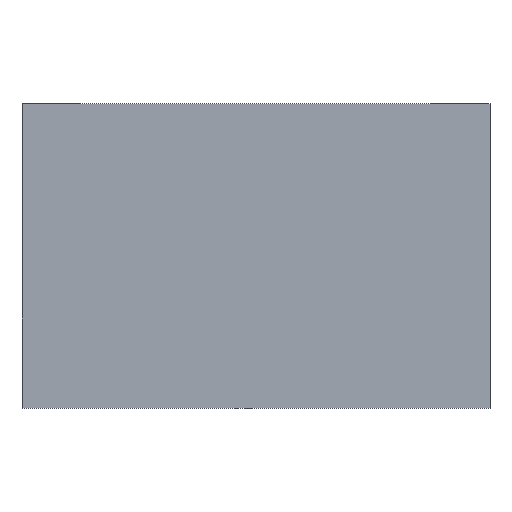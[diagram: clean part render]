
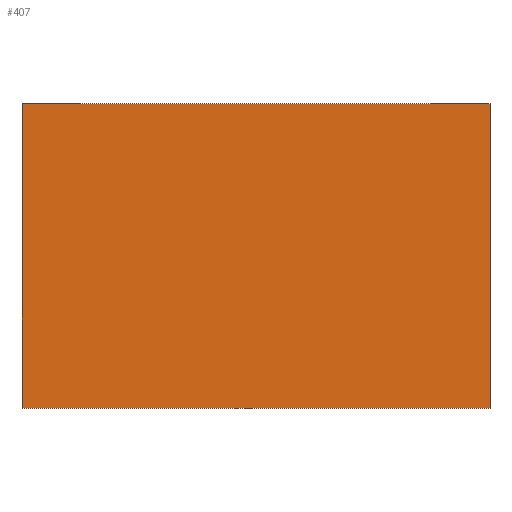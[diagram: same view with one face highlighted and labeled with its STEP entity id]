
A CAD part, top view. The second image highlights one B-rep face of the part: STEP entity #407.
In plain terms, the highlighted planar face has unit normal (0, 0, 1).
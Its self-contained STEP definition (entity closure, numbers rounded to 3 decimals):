
#7 = ORIENTED_EDGE ( 'NONE', *, *, #270, .T. ) ;
#41 = ORIENTED_EDGE ( 'NONE', *, *, #582, .F. ) ;
#49 = VERTEX_POINT ( 'NONE', #74 ) ;
#74 = CARTESIAN_POINT ( 'NONE',  ( -10., 11.1, 0. ) ) ;
#129 = CARTESIAN_POINT ( 'NONE',  ( 10., 11.1, 0. ) ) ;
#145 = ORIENTED_EDGE ( 'NONE', *, *, #466, .F. ) ;
#207 = DIRECTION ( 'NONE',  ( -1., 0., 0. ) ) ;
#213 = DIRECTION ( 'NONE',  ( 0., 1., 0. ) ) ;
#223 = LINE ( 'NONE', #129, #517 ) ;
#255 = CARTESIAN_POINT ( 'NONE',  ( 10., -1.9, 0. ) ) ;
#270 = EDGE_CURVE ( 'NONE', #49, #475, #514, .T. ) ;
#324 = LINE ( 'NONE', #474, #393 ) ;
#329 = CARTESIAN_POINT ( 'NONE',  ( 10., 11.1, 0. ) ) ;
#362 = PLANE ( 'NONE',  #585 ) ;
#365 = CARTESIAN_POINT ( 'NONE',  ( 10., 11.1, 0. ) ) ;
#373 = EDGE_CURVE ( 'NONE', #524, #49, #324, .T. ) ;
#379 = DIRECTION ( 'NONE',  ( 0., -1., 0. ) ) ;
#393 = VECTOR ( 'NONE', #207, 1000. ) ;
#397 = DIRECTION ( 'NONE',  ( 0., -1., 0. ) ) ;
#407 = ADVANCED_FACE ( 'NONE', ( #535 ), #362, .F. ) ;
#411 = LINE ( 'NONE', #255, #417 ) ;
#417 = VECTOR ( 'NONE', #657, 1000. ) ;
#426 = DIRECTION ( 'NONE',  ( 0., 0., -1. ) ) ;
#466 = EDGE_CURVE ( 'NONE', #524, #526, #223, .T. ) ;
#474 = CARTESIAN_POINT ( 'NONE',  ( 10., 11.1, 0. ) ) ;
#475 = VERTEX_POINT ( 'NONE', #490 ) ;
#488 = ORIENTED_EDGE ( 'NONE', *, *, #373, .T. ) ;
#490 = CARTESIAN_POINT ( 'NONE',  ( -10., -1.9, 0. ) ) ;
#514 = LINE ( 'NONE', #655, #546 ) ;
#517 = VECTOR ( 'NONE', #379, 1000. ) ;
#524 = VERTEX_POINT ( 'NONE', #329 ) ;
#526 = VERTEX_POINT ( 'NONE', #542 ) ;
#535 = FACE_OUTER_BOUND ( 'NONE', #648, .T. ) ;
#542 = CARTESIAN_POINT ( 'NONE',  ( 10., -1.9, 0. ) ) ;
#546 = VECTOR ( 'NONE', #397, 1000. ) ;
#582 = EDGE_CURVE ( 'NONE', #526, #475, #411, .T. ) ;
#585 = AXIS2_PLACEMENT_3D ( 'NONE', #365, #426, #213 ) ;
#648 = EDGE_LOOP ( 'NONE', ( #488, #7, #41, #145 ) ) ;
#655 = CARTESIAN_POINT ( 'NONE',  ( -10., 11.1, 0. ) ) ;
#657 = DIRECTION ( 'NONE',  ( -1., 0., 0. ) ) ;
